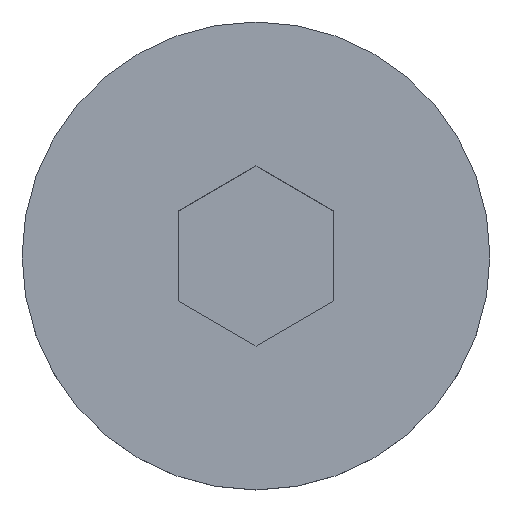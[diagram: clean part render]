
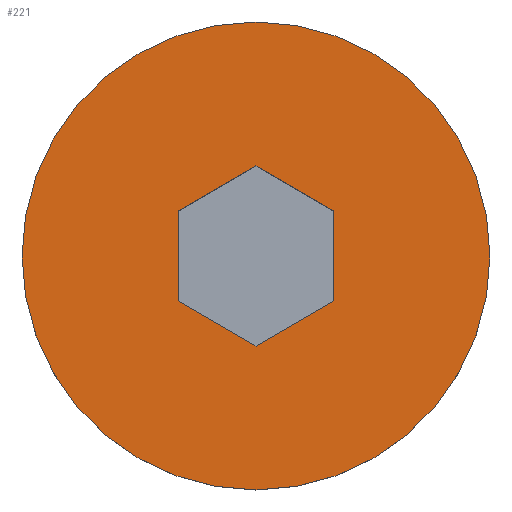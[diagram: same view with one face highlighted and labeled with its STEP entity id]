
A CAD part, top view. The second image highlights one B-rep face of the part: STEP entity #221.
In plain terms, the highlighted planar face has unit normal (0, 0, 1).
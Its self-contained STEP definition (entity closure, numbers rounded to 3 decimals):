
#3 = VERTEX_POINT ( 'NONE', #326 ) ;
#4 = FACE_OUTER_BOUND ( 'NONE', #117, .T. ) ;
#5 = EDGE_CURVE ( 'NONE', #304, #147, #243, .T. ) ;
#7 = LINE ( 'NONE', #45, #291 ) ;
#12 = EDGE_CURVE ( 'NONE', #147, #304, #74, .T. ) ;
#13 = CARTESIAN_POINT ( 'NONE',  ( 2.5, -1.443, 1.5 ) ) ;
#17 = DIRECTION ( 'NONE',  ( 1., 0., 0. ) ) ;
#20 = ORIENTED_EDGE ( 'NONE', *, *, #5, .T. ) ;
#36 = DIRECTION ( 'NONE',  ( 1., 0., 0. ) ) ;
#40 = VECTOR ( 'NONE', #361, 1000. ) ;
#43 = VECTOR ( 'NONE', #421, 1000. ) ;
#45 = CARTESIAN_POINT ( 'NONE',  ( 0., 2.887, 1.5 ) ) ;
#47 = DIRECTION ( 'NONE',  ( -0.866, -0.5, 0. ) ) ;
#51 = PLANE ( 'NONE',  #395 ) ;
#55 = CARTESIAN_POINT ( 'NONE',  ( -7.5, 0., 1.5 ) ) ;
#61 = EDGE_CURVE ( 'NONE', #275, #233, #352, .T. ) ;
#63 = ORIENTED_EDGE ( 'NONE', *, *, #12, .T. ) ;
#68 = CARTESIAN_POINT ( 'NONE',  ( -2.5, 1.443, 1.5 ) ) ;
#71 = CARTESIAN_POINT ( 'NONE',  ( 7.5, 0., 1.5 ) ) ;
#74 = CIRCLE ( 'NONE', #114, 7.5 ) ;
#76 = EDGE_CURVE ( 'NONE', #423, #234, #7, .T. ) ;
#78 = DIRECTION ( 'NONE',  ( 0.866, -0.5, 0. ) ) ;
#82 = LINE ( 'NONE', #68, #402 ) ;
#112 = ORIENTED_EDGE ( 'NONE', *, *, #144, .F. ) ;
#114 = AXIS2_PLACEMENT_3D ( 'NONE', #167, #171, #36 ) ;
#115 = CARTESIAN_POINT ( 'NONE',  ( -2.5, 1.443, 1.5 ) ) ;
#117 = EDGE_LOOP ( 'NONE', ( #20, #63 ) ) ;
#128 = ORIENTED_EDGE ( 'NONE', *, *, #302, .F. ) ;
#133 = VECTOR ( 'NONE', #337, 1000. ) ;
#144 = EDGE_CURVE ( 'NONE', #234, #173, #82, .T. ) ;
#147 = VERTEX_POINT ( 'NONE', #71 ) ;
#167 = CARTESIAN_POINT ( 'NONE',  ( 0., 0., 1.5 ) ) ;
#170 = EDGE_CURVE ( 'NONE', #173, #3, #209, .T. ) ;
#171 = DIRECTION ( 'NONE',  ( 0., 0., 1. ) ) ;
#173 = VERTEX_POINT ( 'NONE', #411 ) ;
#182 = AXIS2_PLACEMENT_3D ( 'NONE', #197, #428, #399 ) ;
#197 = CARTESIAN_POINT ( 'NONE',  ( 0., 0., 1.5 ) ) ;
#207 = CARTESIAN_POINT ( 'NONE',  ( 2.5, -1.443, 1.5 ) ) ;
#209 = LINE ( 'NONE', #414, #299 ) ;
#216 = DIRECTION ( 'NONE',  ( 0., 0., 1. ) ) ;
#221 = ADVANCED_FACE ( 'NONE', ( #244, #4 ), #51, .T. ) ;
#225 = ORIENTED_EDGE ( 'NONE', *, *, #170, .F. ) ;
#233 = VERTEX_POINT ( 'NONE', #314 ) ;
#234 = VERTEX_POINT ( 'NONE', #115 ) ;
#240 = CARTESIAN_POINT ( 'NONE',  ( 2.5, 1.443, 1.5 ) ) ;
#242 = ORIENTED_EDGE ( 'NONE', *, *, #262, .F. ) ;
#243 = CIRCLE ( 'NONE', #182, 7.5 ) ;
#244 = FACE_BOUND ( 'NONE', #370, .T. ) ;
#253 = CARTESIAN_POINT ( 'NONE',  ( 0., -2.887, 1.5 ) ) ;
#262 = EDGE_CURVE ( 'NONE', #233, #423, #313, .T. ) ;
#275 = VERTEX_POINT ( 'NONE', #13 ) ;
#291 = VECTOR ( 'NONE', #47, 1000. ) ;
#297 = ORIENTED_EDGE ( 'NONE', *, *, #61, .F. ) ;
#299 = VECTOR ( 'NONE', #78, 1000. ) ;
#302 = EDGE_CURVE ( 'NONE', #3, #275, #386, .T. ) ;
#304 = VERTEX_POINT ( 'NONE', #55 ) ;
#309 = CARTESIAN_POINT ( 'NONE',  ( 0., 0., 1.5 ) ) ;
#313 = LINE ( 'NONE', #240, #133 ) ;
#314 = CARTESIAN_POINT ( 'NONE',  ( 2.5, 1.443, 1.5 ) ) ;
#326 = CARTESIAN_POINT ( 'NONE',  ( 0., -2.887, 1.5 ) ) ;
#332 = DIRECTION ( 'NONE',  ( 0., -1., 0. ) ) ;
#337 = DIRECTION ( 'NONE',  ( -0.866, 0.5, 0. ) ) ;
#352 = LINE ( 'NONE', #207, #40 ) ;
#361 = DIRECTION ( 'NONE',  ( 0., 1., 0. ) ) ;
#370 = EDGE_LOOP ( 'NONE', ( #242, #297, #128, #225, #112, #400 ) ) ;
#386 = LINE ( 'NONE', #253, #43 ) ;
#387 = CARTESIAN_POINT ( 'NONE',  ( 0., 2.887, 1.5 ) ) ;
#395 = AXIS2_PLACEMENT_3D ( 'NONE', #309, #216, #17 ) ;
#399 = DIRECTION ( 'NONE',  ( 1., 0., 0. ) ) ;
#400 = ORIENTED_EDGE ( 'NONE', *, *, #76, .F. ) ;
#402 = VECTOR ( 'NONE', #332, 1000. ) ;
#411 = CARTESIAN_POINT ( 'NONE',  ( -2.5, -1.443, 1.5 ) ) ;
#414 = CARTESIAN_POINT ( 'NONE',  ( -2.5, -1.443, 1.5 ) ) ;
#421 = DIRECTION ( 'NONE',  ( 0.866, 0.5, 0. ) ) ;
#423 = VERTEX_POINT ( 'NONE', #387 ) ;
#428 = DIRECTION ( 'NONE',  ( 0., 0., 1. ) ) ;
